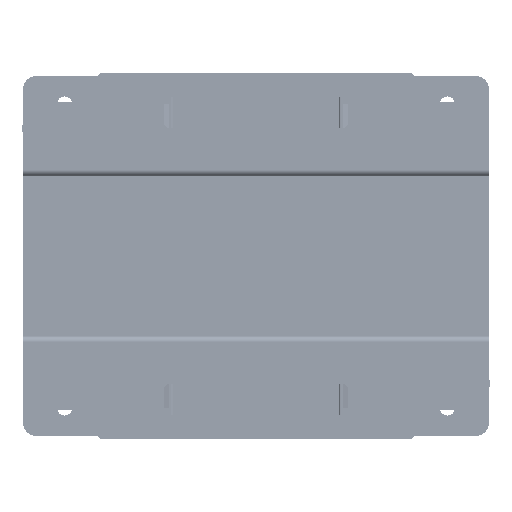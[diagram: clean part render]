
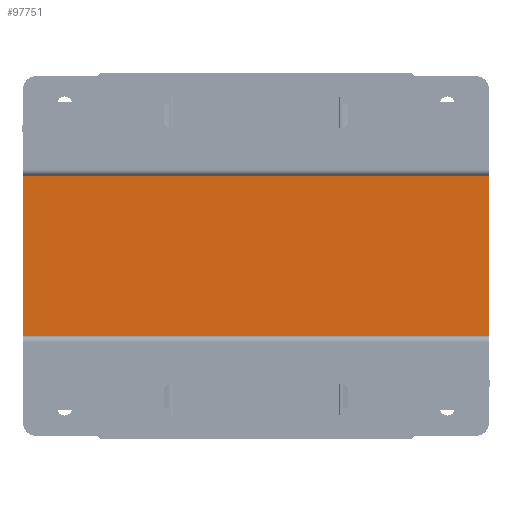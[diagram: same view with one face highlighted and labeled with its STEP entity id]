
A CAD part, front view. The second image highlights one B-rep face of the part: STEP entity #97751.
In plain terms, the highlighted planar face has unit normal (0, -1, 0).
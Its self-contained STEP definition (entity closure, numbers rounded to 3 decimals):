
#15061 = ORIENTED_EDGE ( 'NONE', *, *, #185649, .F. ) ;
#21611 = CARTESIAN_POINT ( 'NONE',  ( 109.5, -91.25, 37.5 ) ) ;
#22121 = VERTEX_POINT ( 'NONE', #25159 ) ;
#24192 = ORIENTED_EDGE ( 'NONE', *, *, #146130, .F. ) ;
#25159 = CARTESIAN_POINT ( 'NONE',  ( 109.5, -91.25, 37.5 ) ) ;
#26846 = ORIENTED_EDGE ( 'NONE', *, *, #37682, .T. ) ;
#27261 = DIRECTION ( 'NONE',  ( 1., 0., 0. ) ) ;
#27417 = VERTEX_POINT ( 'NONE', #108091 ) ;
#32710 = VECTOR ( 'NONE', #154327, 1000. ) ;
#33540 = DIRECTION ( 'NONE',  ( 0., 0., 1. ) ) ;
#37682 = EDGE_CURVE ( 'NONE', #27417, #50303, #84729, .T. ) ;
#39250 = EDGE_LOOP ( 'NONE', ( #26846, #24192, #15061, #64082 ) ) ;
#50303 = VERTEX_POINT ( 'NONE', #129247 ) ;
#59247 = VERTEX_POINT ( 'NONE', #81646 ) ;
#59308 = CARTESIAN_POINT ( 'NONE',  ( -109.5, -91.25, 37.5 ) ) ;
#61727 = AXIS2_PLACEMENT_3D ( 'NONE', #180073, #121606, #33540 ) ;
#62864 = FACE_OUTER_BOUND ( 'NONE', #39250, .T. ) ;
#64082 = ORIENTED_EDGE ( 'NONE', *, *, #152013, .T. ) ;
#71817 = LINE ( 'NONE', #124741, #32710 ) ;
#78948 = LINE ( 'NONE', #21611, #157131 ) ;
#81646 = CARTESIAN_POINT ( 'NONE',  ( -109.5, -91.25, 37.5 ) ) ;
#84729 = LINE ( 'NONE', #115317, #158287 ) ;
#92065 = VECTOR ( 'NONE', #133266, 1000. ) ;
#97751 = ADVANCED_FACE ( 'NONE', ( #62864 ), #106797, .F. ) ;
#106797 = PLANE ( 'NONE',  #61727 ) ;
#108091 = CARTESIAN_POINT ( 'NONE',  ( -109.5, -91.25, -37.5 ) ) ;
#115317 = CARTESIAN_POINT ( 'NONE',  ( -109.5, -91.25, -37.5 ) ) ;
#121606 = DIRECTION ( 'NONE',  ( 0., 1., 0. ) ) ;
#124541 = DIRECTION ( 'NONE',  ( 0., 0., -1. ) ) ;
#124741 = CARTESIAN_POINT ( 'NONE',  ( -109.5, -91.25, 37.5 ) ) ;
#129247 = CARTESIAN_POINT ( 'NONE',  ( 109.5, -91.25, -37.5 ) ) ;
#131165 = LINE ( 'NONE', #59308, #92065 ) ;
#133266 = DIRECTION ( 'NONE',  ( 1., 0., 0. ) ) ;
#146130 = EDGE_CURVE ( 'NONE', #22121, #50303, #78948, .T. ) ;
#152013 = EDGE_CURVE ( 'NONE', #59247, #27417, #71817, .T. ) ;
#154327 = DIRECTION ( 'NONE',  ( 0., 0., -1. ) ) ;
#157131 = VECTOR ( 'NONE', #124541, 1000. ) ;
#158287 = VECTOR ( 'NONE', #27261, 1000. ) ;
#180073 = CARTESIAN_POINT ( 'NONE',  ( -109.5, -91.25, 37.5 ) ) ;
#185649 = EDGE_CURVE ( 'NONE', #59247, #22121, #131165, .T. ) ;
